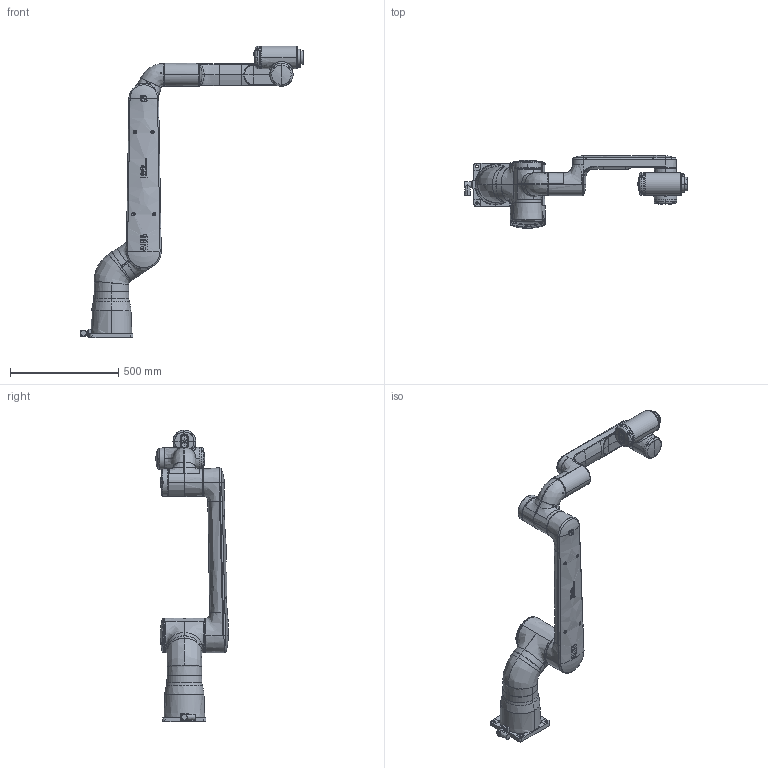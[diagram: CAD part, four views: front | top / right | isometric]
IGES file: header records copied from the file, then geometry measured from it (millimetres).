
Start section: SolidWorks IGES file using analytic representation for surfaces
Global section: file name: C:\data\sap_doc\500000125163\M10\CRB15000_10kg-152_Omnicore_rev00_ASM_CAD.igs; native system: SolidWorks 2022; preprocessor: SolidWorks 2022; author: CNTAFEN; date: 230705.161534; units: millimetre
Bounding box: 1029.8 x 336.65 x 1349.75 mm (x, y, z)
Surface area: 1308234.5 mm2 (no closed solid volume)
Topology: 0 solids, 0 shells, 1590 faces, 25706 edges, 25673 vertices
Faces by surface type: bspline 1119, revolution 471
